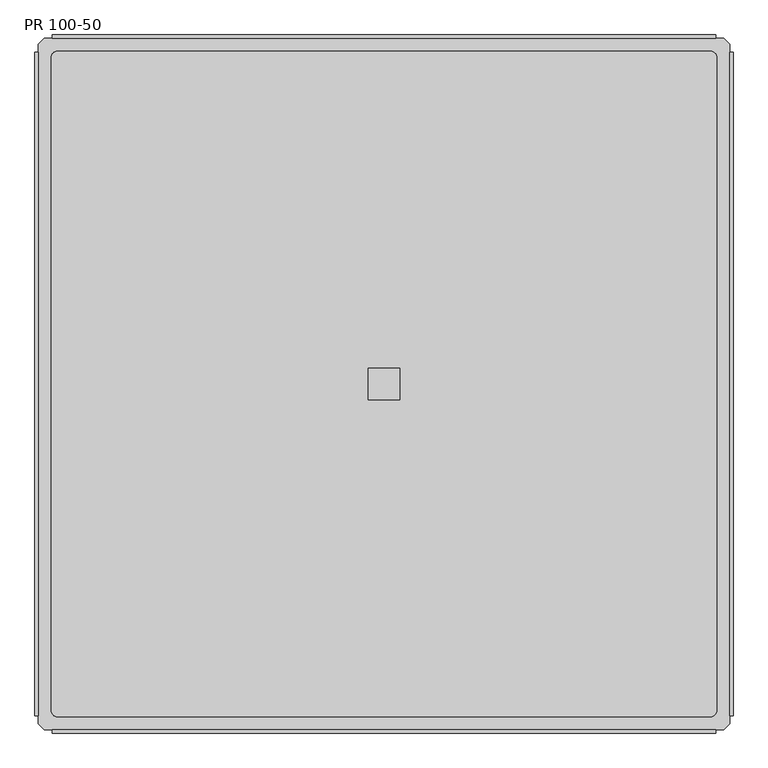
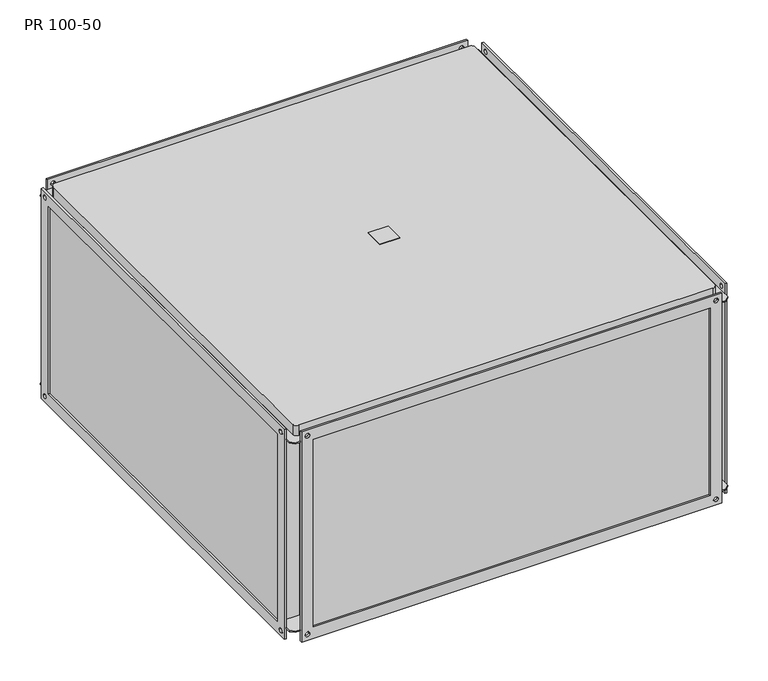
"""IFC4 building model written with IfcOpenShell, lengths in millimetres: proxy geometry, KORF_Рекуператор_Пластинчатый_PR : PR 100-50."""

from ifc_helpers import new_model, si_unit, point, frame, frame_2d, origin, place, context, project, spatial, polyline, circle_curve, trimmed, segment, composite_curve, outline, extrude, source, transform, mapped, element, save
from ifc_brep_helpers import plane_surface, cylinder_surface, revolved_surface, advanced_brep


def pr_100_50_d5668ea5(model_context):
    return source(origin(), model_context, "Body", "SolidModel", [
        extrude(outline(polyline([(533.0, -25.0), (533.0, 25.0), (583.0, 25.0), (583.0, -25.0), (533.0, -25.0)])), frame((0.0, 0.0, 280.0), z_axis=(0.0, 0.0, 1.0), x_axis=(1.0, 0.0, 0.0)), (0.0, 0.0, 1.0), 2.0),
        advanced_brep(
        [(1058.0, -553.0, -250.0), (1058.0, -553.0, 250.0), (58.0, -553.0, 250.0), (58.0, -553.0, -250.0), (1058.0, 553.0, 250.0), (1058.0, 553.0, -250.0), (58.0, 553.0, -250.0), (58.0, 553.0, 250.0), (15.0, 553.0, 253.0), (5.0, 543.0, 253.0), (5.0, -543.0, 253.0), (15.0, -553.0, 253.0), (28.0, -553.0, 253.0), (1088.0, -553.0, 253.0), (1101.0, -553.0, 253.0), (1111.0, -543.0, 253.0), (1111.0, 543.0, 253.0), (1101.0, 553.0, 253.0), (1088.0, 553.0, 253.0), (28.0, 553.0, 253.0), (36.0, 532.0, 253.0), (1080.0, 532.0, 253.0), (1090.0, 522.0, 253.0), (1090.0, -522.0, 253.0), (1080.0, -532.0, 253.0), (36.0, -532.0, 253.0), (26.0, -522.0, 253.0), (26.0, 522.0, 253.0), (55.0, -553.0, 250.0), (55.0, -503.0, 250.0), (55.0, -503.0, -250.0), (55.0, -553.0, -250.0), (55.0, 503.0, 250.0), (55.0, 553.0, 250.0), (55.0, 553.0, -250.0), (55.0, 503.0, -250.0), (5.0, 543.0, -253.0), (15.0, 553.0, -253.0), (28.0, 553.0, -253.0), (1088.0, 553.0, -253.0), (1101.0, 553.0, -253.0), (1111.0, 543.0, -253.0), (1111.0, -543.0, -253.0), (1101.0, -553.0, -253.0), (1088.0, -553.0, -253.0), (28.0, -553.0, -253.0), (15.0, -553.0, -253.0), (5.0, -543.0, -253.0), (1061.0, -503.0, 250.0), (1061.0, -553.0, 250.0), (1061.0, -553.0, -250.0), (1061.0, -503.0, -250.0), (1061.0, 553.0, 250.0), (1061.0, 503.0, 250.0), (1061.0, 503.0, -250.0), (1061.0, 553.0, -250.0), (1111.0, 503.0, 250.0), (1111.0, 543.0, 250.0), (1111.0, -543.0, 250.0), (1111.0, -503.0, 250.0), (1111.0, -503.0, -250.0), (1111.0, -543.0, -250.0), (1111.0, 543.0, -250.0), (1111.0, 503.0, -250.0), (5.0, 543.0, 250.0), (5.0, 503.0, 250.0), (5.0, 503.0, -250.0), (5.0, 543.0, -250.0), (5.0, -543.0, -250.0), (5.0, -503.0, -250.0), (5.0, -503.0, 250.0), (5.0, -543.0, 250.0), (1088.0, 558.0, 280.0), (1088.0, 558.0, -280.0), (28.0, 558.0, -280.0), (28.0, 558.0, 280.0), (1058.0, 558.0, 250.0), (58.0, 558.0, 250.0), (58.0, 558.0, -250.0), (1058.0, 558.0, -250.0), (37.5, 558.0, 265.0), (48.5, 558.0, 265.0), (1067.5, 558.0, 265.0), (1078.5, 558.0, 265.0), (1067.5, 558.0, -265.0), (1078.5, 558.0, -265.0), (37.5, 558.0, -265.0), (48.5, 558.0, -265.0), (1088.0, 553.0, 280.0), (28.0, 553.0, 280.0), (37.5, 553.0, 265.0), (48.5, 553.0, 265.0), (1067.5, 553.0, 265.0), (1078.5, 553.0, 265.0), (28.0, 553.0, -280.0), (1088.0, 553.0, -280.0), (1067.5, 553.0, -265.0), (1078.5, 553.0, -265.0), (37.5, 553.0, -265.0), (48.5, 553.0, -265.0), (28.0, 553.0, 250.0), (28.0, 553.0, -250.0), (1088.0, 553.0, 250.0), (1088.0, 553.0, -250.0), (1088.0, -558.0, 280.0), (28.0, -558.0, 280.0), (28.0, -558.0, -280.0), (1088.0, -558.0, -280.0), (1058.0, -558.0, 250.0), (1058.0, -558.0, -250.0), (58.0, -558.0, -250.0), (58.0, -558.0, 250.0), (1067.5, -558.0, 265.0), (1078.5, -558.0, 265.0), (1067.5, -558.0, -265.0), (1078.5, -558.0, -265.0), (37.5, -558.0, 265.0), (48.5, -558.0, 265.0), (37.5, -558.0, -265.0), (48.5, -558.0, -265.0), (1088.0, -553.0, -280.0), (28.0, -553.0, -280.0), (1067.5, -553.0, -265.0), (1078.5, -553.0, -265.0), (37.5, -553.0, -265.0), (48.5, -553.0, -265.0), (28.0, -553.0, 280.0), (1088.0, -553.0, 280.0), (1067.5, -553.0, 265.0), (1078.5, -553.0, 265.0), (37.5, -553.0, 265.0), (48.5, -553.0, 265.0), (28.0, -553.0, 250.0), (28.0, -553.0, -250.0), (1088.0, -553.0, 250.0), (1088.0, -553.0, -250.0), (1101.0, -553.0, 250.0), (15.0, 553.0, 250.0), (1101.0, 553.0, 250.0), (15.0, -553.0, 250.0), (1101.0, 553.0, -250.0), (15.0, -553.0, -250.0), (15.0, 553.0, -250.0), (1101.0, -553.0, -250.0), (1080.0, 532.0, 280.0), (36.0, 532.0, 280.0), (26.0, 522.0, 280.0), (26.0, -522.0, 280.0), (36.0, -532.0, 280.0), (1080.0, -532.0, 280.0), (1090.0, -522.0, 280.0), (1090.0, 522.0, 280.0)],
        [
            (0, 1),
            (1, 2),
            (2, 3),
            (3, 0),
            (4, 5),
            (5, 6),
            (6, 7),
            (7, 4),
            (8, 9),
            (9, 10),
            (10, 11),
            (11, 12),
            (12, 13),
            (13, 14),
            (14, 15),
            (15, 16),
            (16, 17),
            (17, 18),
            (18, 19),
            (19, 8),
            (20, 21),
            (21, 22, circle_curve(frame((1080.0, 522.0, 253.0), z_axis=(0.0, 0.0, -1.0), x_axis=(1.0, 0.0, 0.0)), 10.0)),
            (22, 23),
            (23, 24, circle_curve(frame((1080.0, -522.0, 253.0), z_axis=(0.0, 0.0, -1.0), x_axis=(1.0, 0.0, 0.0)), 10.0)),
            (24, 25),
            (25, 26, circle_curve(frame((36.0, -522.0, 253.0), z_axis=(0.0, 0.0, -1.0), x_axis=(1.0, 0.0, 0.0)), 10.0)),
            (26, 27),
            (27, 20, circle_curve(frame((36.0, 522.0, 253.0), z_axis=(0.0, 0.0, -1.0), x_axis=(1.0, 0.0, 0.0)), 10.0)),
            (28, 29),
            (29, 30),
            (30, 31),
            (31, 28),
            (32, 33),
            (33, 34),
            (34, 35),
            (35, 32),
            (36, 37),
            (37, 38),
            (38, 39),
            (39, 40),
            (40, 41),
            (41, 42),
            (42, 43),
            (43, 44),
            (44, 45),
            (45, 46),
            (46, 47),
            (47, 36),
            (48, 49),
            (49, 50),
            (50, 51),
            (51, 48),
            (52, 53),
            (53, 54),
            (54, 55),
            (55, 52),
            (56, 57),
            (57, 16),
            (15, 58),
            (58, 59),
            (59, 60),
            (60, 61),
            (61, 42),
            (41, 62),
            (62, 63),
            (63, 56),
            (64, 65),
            (65, 66),
            (66, 67),
            (67, 36),
            (47, 68),
            (68, 69),
            (69, 70),
            (70, 71),
            (71, 10),
            (9, 64),
            (29, 70),
            (69, 30),
            (59, 48),
            (51, 60),
            (65, 32),
            (35, 66),
            (53, 56),
            (63, 54),
            (72, 73),
            (73, 74),
            (74, 75),
            (75, 72),
            (76, 77),
            (77, 78),
            (78, 79),
            (79, 76),
            (80, 81, circle_curve(frame((43.0, 558.0, 265.0), z_axis=(0.0, -1.0, 0.0), x_axis=(1.0, 0.0, 0.0)), 5.5)),
            (81, 80, circle_curve(frame((43.0, 558.0, 265.0), z_axis=(0.0, -1.0, 0.0), x_axis=(1.0, 0.0, 0.0)), 5.5)),
            (82, 83, circle_curve(frame((1073.0, 558.0, 265.0), z_axis=(0.0, -1.0, 0.0), x_axis=(1.0, 0.0, 0.0)), 5.5)),
            (83, 82, circle_curve(frame((1073.0, 558.0, 265.0), z_axis=(0.0, -1.0, 0.0), x_axis=(1.0, 0.0, 0.0)), 5.5)),
            (84, 85, circle_curve(frame((1073.0, 558.0, -265.0), z_axis=(0.0, -1.0, 0.0), x_axis=(1.0, 0.0, 0.0)), 5.5)),
            (85, 84, circle_curve(frame((1073.0, 558.0, -265.0), z_axis=(0.0, -1.0, 0.0), x_axis=(1.0, 0.0, 0.0)), 5.5)),
            (86, 87, circle_curve(frame((43.0, 558.0, -265.0), z_axis=(0.0, -1.0, 0.0), x_axis=(1.0, 0.0, 0.0)), 5.5)),
            (87, 86, circle_curve(frame((43.0, 558.0, -265.0), z_axis=(0.0, -1.0, 0.0), x_axis=(1.0, 0.0, 0.0)), 5.5)),
            (88, 89),
            (89, 19),
            (18, 88),
            (90, 91, circle_curve(frame((43.0, 553.0, 265.0), z_axis=(0.0, 1.0, 0.0), x_axis=(1.0, 0.0, 0.0)), 5.5)),
            (91, 90, circle_curve(frame((43.0, 553.0, 265.0), z_axis=(0.0, 1.0, 0.0), x_axis=(1.0, 0.0, 0.0)), 5.5)),
            (92, 93, circle_curve(frame((1073.0, 553.0, 265.0), z_axis=(0.0, 1.0, 0.0), x_axis=(1.0, 0.0, 0.0)), 5.5)),
            (93, 92, circle_curve(frame((1073.0, 553.0, 265.0), z_axis=(0.0, 1.0, 0.0), x_axis=(1.0, 0.0, 0.0)), 5.5)),
            (94, 95),
            (95, 39),
            (38, 94),
            (96, 97, circle_curve(frame((1073.0, 553.0, -265.0), z_axis=(0.0, 1.0, 0.0), x_axis=(1.0, 0.0, 0.0)), 5.5)),
            (97, 96, circle_curve(frame((1073.0, 553.0, -265.0), z_axis=(0.0, 1.0, 0.0), x_axis=(1.0, 0.0, 0.0)), 5.5)),
            (98, 99, circle_curve(frame((43.0, 553.0, -265.0), z_axis=(0.0, 1.0, 0.0), x_axis=(1.0, 0.0, 0.0)), 5.5)),
            (99, 98, circle_curve(frame((43.0, 553.0, -265.0), z_axis=(0.0, 1.0, 0.0), x_axis=(1.0, 0.0, 0.0)), 5.5)),
            (33, 100),
            (100, 101),
            (101, 34),
            (102, 52),
            (55, 103),
            (103, 102),
            (75, 89),
            (88, 72),
            (74, 94),
            (38, 101),
            (100, 19),
            (73, 95),
            (18, 102),
            (103, 39),
            (79, 5),
            (4, 76),
            (78, 6),
            (77, 7),
            (104, 105),
            (105, 106),
            (106, 107),
            (107, 104),
            (108, 109),
            (109, 110),
            (110, 111),
            (111, 108),
            (112, 113, circle_curve(frame((1073.0, -558.0, 265.0), z_axis=(0.0, 1.0, 0.0), x_axis=(1.0, 0.0, 0.0)), 5.5)),
            (113, 112, circle_curve(frame((1073.0, -558.0, 265.0), z_axis=(0.0, 1.0, 0.0), x_axis=(1.0, 0.0, 0.0)), 5.5)),
            (114, 115, circle_curve(frame((1073.0, -558.0, -265.0), z_axis=(0.0, 1.0, 0.0), x_axis=(1.0, 0.0, 0.0)), 5.5)),
            (115, 114, circle_curve(frame((1073.0, -558.0, -265.0), z_axis=(0.0, 1.0, 0.0), x_axis=(1.0, 0.0, 0.0)), 5.5)),
            (116, 117, circle_curve(frame((43.0, -558.0, 265.0), z_axis=(0.0, 1.0, 0.0), x_axis=(1.0, 0.0, 0.0)), 5.5)),
            (117, 116, circle_curve(frame((43.0, -558.0, 265.0), z_axis=(0.0, 1.0, 0.0), x_axis=(1.0, 0.0, 0.0)), 5.5)),
            (118, 119, circle_curve(frame((43.0, -558.0, -265.0), z_axis=(0.0, 1.0, 0.0), x_axis=(1.0, 0.0, 0.0)), 5.5)),
            (119, 118, circle_curve(frame((43.0, -558.0, -265.0), z_axis=(0.0, 1.0, 0.0), x_axis=(1.0, 0.0, 0.0)), 5.5)),
            (120, 121),
            (121, 45),
            (44, 120),
            (122, 123, circle_curve(frame((1073.0, -553.0, -265.0), z_axis=(0.0, -1.0, 0.0), x_axis=(1.0, 0.0, 0.0)), 5.5)),
            (123, 122, circle_curve(frame((1073.0, -553.0, -265.0), z_axis=(0.0, -1.0, 0.0), x_axis=(1.0, 0.0, 0.0)), 5.5)),
            (124, 125, circle_curve(frame((43.0, -553.0, -265.0), z_axis=(0.0, -1.0, 0.0), x_axis=(1.0, 0.0, 0.0)), 5.5)),
            (125, 124, circle_curve(frame((43.0, -553.0, -265.0), z_axis=(0.0, -1.0, 0.0), x_axis=(1.0, 0.0, 0.0)), 5.5)),
            (126, 127),
            (127, 13),
            (12, 126),
            (128, 129, circle_curve(frame((1073.0, -553.0, 265.0), z_axis=(0.0, -1.0, 0.0), x_axis=(1.0, 0.0, 0.0)), 5.5)),
            (129, 128, circle_curve(frame((1073.0, -553.0, 265.0), z_axis=(0.0, -1.0, 0.0), x_axis=(1.0, 0.0, 0.0)), 5.5)),
            (130, 131, circle_curve(frame((43.0, -553.0, 265.0), z_axis=(0.0, -1.0, 0.0), x_axis=(1.0, 0.0, 0.0)), 5.5)),
            (131, 130, circle_curve(frame((43.0, -553.0, 265.0), z_axis=(0.0, -1.0, 0.0), x_axis=(1.0, 0.0, 0.0)), 5.5)),
            (132, 28),
            (31, 133),
            (133, 132),
            (49, 134),
            (134, 135),
            (135, 50),
            (104, 127),
            (126, 105),
            (12, 132),
            (133, 45),
            (121, 106),
            (120, 107),
            (44, 135),
            (134, 13),
            (108, 1),
            (0, 109),
            (3, 110),
            (2, 111),
            (81, 91),
            (90, 80),
            (83, 93),
            (92, 82),
            (85, 97),
            (96, 84),
            (87, 99),
            (98, 86),
            (112, 128),
            (129, 113),
            (114, 122),
            (123, 115),
            (116, 130),
            (131, 117),
            (118, 124),
            (125, 119),
            (58, 136),
            (136, 134),
            (64, 137),
            (137, 100),
            (138, 57),
            (102, 138),
            (139, 71),
            (132, 139),
            (137, 8),
            (138, 17),
            (139, 11),
            (136, 14),
            (62, 140),
            (140, 103),
            (68, 141),
            (141, 133),
            (142, 67),
            (101, 142),
            (143, 61),
            (135, 143),
            (37, 142),
            (40, 140),
            (46, 141),
            (43, 143),
            (144, 145),
            (145, 146, circle_curve(frame((36.0, 522.0, 280.0), z_axis=(0.0, 0.0, 1.0), x_axis=(1.0, 0.0, 0.0)), 10.0)),
            (146, 147),
            (147, 148, circle_curve(frame((36.0, -522.0, 280.0), z_axis=(0.0, 0.0, 1.0), x_axis=(1.0, 0.0, 0.0)), 10.0)),
            (148, 149),
            (149, 150, circle_curve(frame((1080.0, -522.0, 280.0), z_axis=(0.0, 0.0, 1.0), x_axis=(1.0, 0.0, 0.0)), 10.0)),
            (150, 151),
            (151, 144, circle_curve(frame((1080.0, 522.0, 280.0), z_axis=(0.0, 0.0, 1.0), x_axis=(1.0, 0.0, 0.0)), 10.0)),
            (144, 21),
            (20, 145),
            (27, 146),
            (26, 147),
            (25, 148),
            (24, 149),
            (23, 150),
            (22, 151),
        ],
        [
            plane_surface(frame((55.0, -553.0, 253.0), z_axis=(0.0, -1.0, 0.0), x_axis=(-1.0, 0.0, 0.0))),
            plane_surface(frame((55.0, 553.0, 253.0), z_axis=(0.0, 1.0, 0.0), x_axis=(1.0, 0.0, 0.0))),
            plane_surface(frame((1061.0, -553.0, 253.0), z_axis=(0.0, 0.0, 1.0), x_axis=(0.0, 1.0, 0.0))),
            plane_surface(frame((55.0, -553.0, 253.0), z_axis=(-1.0, 0.0, 0.0), x_axis=(0.0, 1.0, 0.0))),
            plane_surface(frame((55.0, -553.0, -253.0), z_axis=(0.0, 0.0, -1.0), x_axis=(0.0, 1.0, 0.0))),
            plane_surface(frame((1061.0, -553.0, -253.0), z_axis=(1.0, 0.0, 0.0), x_axis=(0.0, 1.0, 0.0))),
            plane_surface(frame((1111.0, -503.0, 253.0), z_axis=(1.0, 0.0, 0.0), x_axis=(0.0, 0.0, -1.0))),
            plane_surface(frame((5.0, -503.0, 253.0), z_axis=(-1.0, 0.0, 0.0), x_axis=(0.0, 0.0, 1.0))),
            plane_surface(frame((1111.0, -503.0, 253.0), z_axis=(0.0, -1.0, 0.0), x_axis=(-1.0, 0.0, 0.0))),
            plane_surface(frame((1111.0, 503.0, -253.0), z_axis=(0.0, 1.0, 0.0), x_axis=(-1.0, 0.0, 0.0))),
            plane_surface(frame((28.0, 558.0, 280.0), z_axis=(0.0, 1.0, 0.0), x_axis=(1.0, 0.0, 0.0))),
            plane_surface(frame((28.0, 553.0, 280.0), z_axis=(0.0, -1.0, 0.0), x_axis=(-1.0, 0.0, 0.0))),
            plane_surface(frame((1088.0, 553.0, 280.0), z_axis=(0.0, 0.0, 1.0), x_axis=(0.0, 1.0, 0.0))),
            plane_surface(frame((28.0, 553.0, 280.0), z_axis=(-1.0, 0.0, 0.0), x_axis=(0.0, 1.0, 0.0))),
            plane_surface(frame((28.0, 553.0, -280.0), z_axis=(0.0, 0.0, -1.0), x_axis=(0.0, 1.0, 0.0))),
            plane_surface(frame((1088.0, 553.0, -280.0), z_axis=(1.0, 0.0, 0.0), x_axis=(0.0, 1.0, 0.0))),
            plane_surface(frame((1058.0, 553.0, 250.0), z_axis=(-1.0, 0.0, 0.0), x_axis=(0.0, 1.0, 0.0))),
            plane_surface(frame((1058.0, 553.0, -250.0), z_axis=(0.0, 0.0, 1.0), x_axis=(0.0, 1.0, 0.0))),
            plane_surface(frame((58.0, 553.0, -250.0), z_axis=(1.0, 0.0, 0.0), x_axis=(0.0, 1.0, 0.0))),
            plane_surface(frame((58.0, 553.0, 250.0), z_axis=(0.0, 0.0, -1.0), x_axis=(0.0, 1.0, 0.0))),
            plane_surface(frame((28.0, -558.0, 280.0), z_axis=(0.0, -1.0, 0.0), x_axis=(-1.0, 0.0, 0.0))),
            plane_surface(frame((28.0, -553.0, 280.0), z_axis=(0.0, 1.0, 0.0), x_axis=(1.0, 0.0, 0.0))),
            plane_surface(frame((1088.0, -558.0, 280.0), z_axis=(0.0, 0.0, 1.0), x_axis=(0.0, 1.0, 0.0))),
            plane_surface(frame((28.0, -558.0, 280.0), z_axis=(-1.0, 0.0, 0.0), x_axis=(0.0, 1.0, 0.0))),
            plane_surface(frame((28.0, -558.0, -280.0), z_axis=(0.0, 0.0, -1.0), x_axis=(0.0, 1.0, 0.0))),
            plane_surface(frame((1088.0, -558.0, -280.0), z_axis=(1.0, 0.0, 0.0), x_axis=(0.0, 1.0, 0.0))),
            plane_surface(frame((1058.0, -558.0, 250.0), z_axis=(-1.0, 0.0, 0.0), x_axis=(0.0, 1.0, 0.0))),
            plane_surface(frame((1058.0, -558.0, -250.0), z_axis=(0.0, 0.0, 1.0), x_axis=(0.0, 1.0, 0.0))),
            plane_surface(frame((58.0, -558.0, -250.0), z_axis=(1.0, 0.0, 0.0), x_axis=(0.0, 1.0, 0.0))),
            plane_surface(frame((58.0, -558.0, 250.0), z_axis=(0.0, 0.0, -1.0), x_axis=(0.0, 1.0, 0.0))),
            revolved_surface(polyline([(48.5, 558.0, 265.0), (48.5, 553.0, 265.0)]), (43.0, 0.0, 265.0), (0.0, 1.0, 0.0)),
            revolved_surface(polyline([(1078.5, 558.0, 265.0), (1078.5, 553.0, 265.0)]), (1073.0, 0.0, 265.0), (0.0, 1.0, 0.0)),
            revolved_surface(polyline([(1078.5, 558.0, -265.0), (1078.5, 553.0, -265.0)]), (1073.0, 0.0, -265.0), (0.0, 1.0, 0.0)),
            revolved_surface(polyline([(48.5, 558.0, -265.0), (48.5, 553.0, -265.0)]), (43.0, 0.0, -265.0), (0.0, 1.0, 0.0)),
            revolved_surface(polyline([(1078.5, -553.0, 265.0), (1078.5, -558.0, 265.0)]), (1073.0, 0.0, 265.0), (0.0, 1.0, 0.0)),
            revolved_surface(polyline([(1078.5, -553.0, -265.0), (1078.5, -558.0, -265.0)]), (1073.0, 0.0, -265.0), (0.0, 1.0, 0.0)),
            revolved_surface(polyline([(48.5, -553.0, 265.0), (48.5, -558.0, 265.0)]), (43.0, 0.0, 265.0), (0.0, 1.0, 0.0)),
            revolved_surface(polyline([(48.5, -553.0, -265.0), (48.5, -558.0, -265.0)]), (43.0, 0.0, -265.0), (0.0, 1.0, 0.0)),
            plane_surface(frame((55.0, 503.0, 250.0), z_axis=(0.0, 0.0, -1.0), x_axis=(0.0, -1.0, 0.0))),
            plane_surface(frame((55.0, 553.0, 253.0), z_axis=(0.0, 1.0, 0.0), x_axis=(0.0, 0.0, -1.0))),
            plane_surface(frame((15.0, 553.0, 253.0), z_axis=(-0.7071067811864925, 0.7071067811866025, 0.0), x_axis=(0.0, 0.0, -1.0))),
            plane_surface(frame((1111.0, 543.0, 253.0), z_axis=(0.7071067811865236, 0.7071067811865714, 0.0), x_axis=(0.0, 0.0, -1.0))),
            plane_surface(frame((1101.0, 553.0, 253.0), z_axis=(0.0, 1.0, 0.0), x_axis=(0.0, 0.0, -1.0))),
            plane_surface(frame((5.0, -543.0, 253.0), z_axis=(-0.7071067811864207, -0.7071067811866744, 0.0), x_axis=(0.0, 0.0, -1.0))),
            plane_surface(frame((15.0, -553.0, 253.0), z_axis=(0.0, -1.0, 0.0), x_axis=(0.0, 0.0, -1.0))),
            plane_surface(frame((1061.0, -553.0, 253.0), z_axis=(0.0, -1.0, 0.0), x_axis=(0.0, 0.0, -1.0))),
            plane_surface(frame((1101.0, -553.0, 253.0), z_axis=(0.7071067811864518, -0.7071067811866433, 0.0), x_axis=(0.0, 0.0, -1.0))),
            plane_surface(frame((55.0, 503.0, -250.0), z_axis=(0.0, 0.0, 1.0), x_axis=(0.0, 1.0, 0.0))),
            plane_surface(frame((55.0, 553.0, -250.0), z_axis=(0.0, 1.0, 0.0), x_axis=(0.0, 0.0, -1.0))),
            plane_surface(frame((15.0, 553.0, -250.0), z_axis=(-0.7071067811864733, 0.7071067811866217, 0.0), x_axis=(0.0, 0.0, -1.0))),
            plane_surface(frame((1111.0, 543.0, -250.0), z_axis=(0.7071067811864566, 0.7071067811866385, 0.0), x_axis=(0.0, 0.0, -1.0))),
            plane_surface(frame((1101.0, 553.0, -250.0), z_axis=(0.0, 1.0, 0.0), x_axis=(0.0, 0.0, -1.0))),
            plane_surface(frame((5.0, -543.0, -250.0), z_axis=(-0.707106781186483, -0.7071067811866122, 0.0), x_axis=(0.0, 0.0, -1.0))),
            plane_surface(frame((15.0, -553.0, -250.0), z_axis=(0.0, -1.0, 0.0), x_axis=(0.0, 0.0, -1.0))),
            plane_surface(frame((1061.0, -553.0, -250.0), z_axis=(0.0, -1.0, 0.0), x_axis=(0.0, 0.0, -1.0))),
            plane_surface(frame((1101.0, -553.0, -250.0), z_axis=(0.7071067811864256, -0.7071067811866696, 0.0), x_axis=(0.0, 0.0, -1.0))),
            plane_surface(frame((36.0, 532.0, 280.0), z_axis=(0.0, 0.0, 1.0), x_axis=(-1.0, 0.0, 0.0))),
            plane_surface(frame((1080.0, 532.0, 280.0), z_axis=(0.0, 1.0, 0.0), x_axis=(0.0, 0.0, -1.0))),
            cylinder_surface(frame((36.0, 522.0, 253.0), z_axis=(0.0, 0.0, 1.0), x_axis=(1.0, 0.0, 0.0)), 10.0),
            plane_surface(frame((26.0, 522.0, 280.0), z_axis=(-1.0, 0.0, 0.0), x_axis=(0.0, 0.0, -1.0))),
            cylinder_surface(frame((36.0, -522.0, 253.0), z_axis=(0.0, 0.0, 1.0), x_axis=(1.0, 0.0, 0.0)), 10.0),
            plane_surface(frame((36.0, -532.0, 280.0), z_axis=(0.0, -1.0, 0.0), x_axis=(0.0, 0.0, -1.0))),
            cylinder_surface(frame((1080.0, -522.0, 253.0), z_axis=(0.0, 0.0, 1.0), x_axis=(1.0, 0.0, 0.0)), 10.0),
            plane_surface(frame((1090.0, -522.0, 280.0), z_axis=(1.0, 0.0, 0.0), x_axis=(0.0, 0.0, -1.0))),
            cylinder_surface(frame((1080.0, 522.0, 253.0), z_axis=(0.0, 0.0, 1.0), x_axis=(1.0, 0.0, 0.0)), 10.0),
        ],
        [
            (0, [[1, 2, 3, 4]]),
            (1, [[5, 6, 7, 8]]),
            (2, [[9, 10, 11, 12, 13, 14, 15, 16, 17, 18, 19, 20], [21, 22, 23, 24, 25, 26, 27, 28]]),
            (3, [[29, 30, 31, 32]]),
            (3, [[33, 34, 35, 36]]),
            (4, [[37, 38, 39, 40, 41, 42, 43, 44, 45, 46, 47, 48]]),
            (5, [[49, 50, 51, 52]]),
            (5, [[53, 54, 55, 56]]),
            (6, [[57, 58, -16, 59, 60, 61, 62, 63, -42, 64, 65, 66]]),
            (7, [[67, 68, 69, 70, -48, 71, 72, 73, 74, 75, -10, 76]]),
            (8, [[77, -73, 78, -30]]),
            (8, [[79, -52, 80, -61]]),
            (9, [[81, -36, 82, -68]]),
            (9, [[83, -66, 84, -54]]),
            (10, [[85, 86, 87, 88], [89, 90, 91, 92], [93, 94], [95, 96], [97, 98], [99, 100]]),
            (11, [[101, 102, -19, 103], [104, 105], [106, 107]]),
            (11, [[108, 109, -39, 110], [111, 112], [113, 114]]),
            (11, [[115, 116, 117, -34]]),
            (11, [[118, -56, 119, 120]]),
            (12, [[-88, 121, -101, 122]]),
            (13, [[-87, 123, -110, 124, -116, 125, -102, -121]]),
            (14, [[-86, 126, -108, -123]]),
            (15, [[-85, -122, -103, 127, -120, 128, -109, -126]]),
            (16, [[-92, 129, -5, 130]]),
            (17, [[-91, 131, -6, -129]]),
            (18, [[-90, 132, -7, -131]]),
            (19, [[-89, -130, -8, -132]]),
            (20, [[133, 134, 135, 136], [137, 138, 139, 140], [141, 142], [143, 144], [145, 146], [147, 148]]),
            (21, [[149, 150, -45, 151], [152, 153], [154, 155]]),
            (21, [[156, 157, -13, 158], [159, 160], [161, 162]]),
            (21, [[163, -32, 164, 165]]),
            (21, [[166, 167, 168, -50]]),
            (22, [[-133, 169, -156, 170]]),
            (23, [[-134, -170, -158, 171, -165, 172, -150, 173]]),
            (24, [[-135, -173, -149, 174]]),
            (25, [[-136, -174, -151, 175, -167, 176, -157, -169]]),
            (26, [[-137, 177, -1, 178]]),
            (27, [[-138, -178, -4, 179]]),
            (28, [[-139, -179, -3, 180]]),
            (29, [[-140, -180, -2, -177]]),
            (30, [[-94, 181, -104, 182]]),
            (30, [[-93, -182, -105, -181]]),
            (31, [[-96, 183, -106, 184]]),
            (31, [[-95, -184, -107, -183]]),
            (32, [[-98, 185, -111, 186]]),
            (32, [[-97, -186, -112, -185]]),
            (33, [[-100, 187, -113, 188]]),
            (33, [[-99, -188, -114, -187]]),
            (34, [[-141, 189, -160, 190]]),
            (34, [[-142, -190, -159, -189]]),
            (35, [[-143, 191, -153, 192]]),
            (35, [[-144, -192, -152, -191]]),
            (36, [[-145, 193, -162, 194]]),
            (36, [[-146, -194, -161, -193]]),
            (37, [[-147, 195, -155, 196]]),
            (37, [[-148, -196, -154, -195]]),
            (38, [[-60, 197, 198, -166, -49, -79]]),
            (38, [[-67, 199, 200, -115, -33, -81]]),
            (38, [[201, -57, -83, -53, -118, 202]]),
            (38, [[203, -74, -77, -29, -163, 204]]),
            (39, [[205, -20, -125, -200]]),
            (40, [[-199, -76, -9, -205]]),
            (41, [[-201, 206, -17, -58]]),
            (42, [[-206, -202, -127, -18]]),
            (43, [[-203, 207, -11, -75]]),
            (44, [[-207, -204, -171, -12]]),
            (45, [[208, -14, -176, -198]]),
            (46, [[-197, -59, -15, -208]]),
            (47, [[-65, 209, 210, -119, -55, -84]]),
            (47, [[-72, 211, 212, -164, -31, -78]]),
            (47, [[213, -69, -82, -35, -117, 214]]),
            (47, [[215, -62, -80, -51, -168, 216]]),
            (48, [[217, -214, -124, -38]]),
            (49, [[-213, -217, -37, -70]]),
            (50, [[-209, -64, -41, 218]]),
            (51, [[-218, -40, -128, -210]]),
            (52, [[-211, -71, -47, 219]]),
            (53, [[-219, -46, -172, -212]]),
            (54, [[220, -216, -175, -44]]),
            (55, [[-215, -220, -43, -63]]),
            (56, [[221, 222, 223, 224, 225, 226, 227, 228]]),
            (57, [[-221, 229, -21, 230]]),
            (58, [[-222, -230, -28, 231]]),
            (59, [[-223, -231, -27, 232]]),
            (60, [[-224, -232, -26, 233]]),
            (61, [[-225, -233, -25, 234]]),
            (62, [[-226, -234, -24, 235]]),
            (63, [[-227, -235, -23, 236]]),
            (64, [[-228, -236, -22, -229]]),
        ],
    ),
        extrude(outline(polyline([(-530.0, 280.0), (530.0, 280.0), (530.0, -280.0), (-530.0, -280.0), (-530.0, 280.0)]), holes=[polyline([(-500.0, 250.0), (-500.0, -250.0), (500.0, -250.0), (500.0, 250.0), (-500.0, 250.0)]), composite_curve([segment(trimmed(circle_curve(frame_2d((515.0, 265.0)), 5.5), [point((509.5, 265.0))], [point((520.5, 265.0))], True, "CARTESIAN"), True, "CONTINUOUS"), segment(trimmed(circle_curve(frame_2d((515.0, 265.0)), 5.5), [point((520.5, 265.0))], [point((509.5, 265.0))], True, "CARTESIAN"), True, "CONTINUOUS")], self_intersect=False), composite_curve([segment(trimmed(circle_curve(frame_2d((-515.0, 265.0)), 5.5), [point((-520.5, 265.0))], [point((-509.5, 265.0))], True, "CARTESIAN"), True, "CONTINUOUS"), segment(trimmed(circle_curve(frame_2d((-515.0, 265.0)), 5.5), [point((-509.5, 265.0))], [point((-520.5, 265.0))], True, "CARTESIAN"), True, "CONTINUOUS")], self_intersect=False), composite_curve([segment(trimmed(circle_curve(frame_2d((-515.0, -265.0)), 5.5), [point((-520.5, -265.0))], [point((-509.5, -265.0))], True, "CARTESIAN"), True, "CONTINUOUS"), segment(trimmed(circle_curve(frame_2d((-515.0, -265.0)), 5.5), [point((-509.5, -265.0))], [point((-520.5, -265.0))], True, "CARTESIAN"), True, "CONTINUOUS")], self_intersect=False), composite_curve([segment(trimmed(circle_curve(frame_2d((515.0, -265.0)), 5.5), [point((509.5, -265.0))], [point((520.5, -265.0))], True, "CARTESIAN"), True, "CONTINUOUS"), segment(trimmed(circle_curve(frame_2d((515.0, -265.0)), 5.5), [point((520.5, -265.0))], [point((509.5, -265.0))], True, "CARTESIAN"), True, "CONTINUOUS")], self_intersect=False)]), frame((1111.0, 0.0, 0.0), z_axis=(1.0, 0.0, 0.0), x_axis=(0.0, 1.0, 0.0)), (0.0, 0.0, 1.0), 5.0),
        advanced_brep(
        [(0.0, -530.0, 280.0), (0.0, 530.0, 280.0), (0.0, 530.0, -280.0), (0.0, -530.0, -280.0), (0.0, -500.0, 250.0), (0.0, -500.0, -250.0), (0.0, 500.0, -250.0), (0.0, 500.0, 250.0), (0.0, 509.5, 265.0), (0.0, 520.5, 265.0), (0.0, -520.5, 265.0), (0.0, -509.5, 265.0), (0.0, -520.5, -265.0), (0.0, -509.5, -265.0), (0.0, 509.5, -265.0), (0.0, 520.5, -265.0), (5.0, -530.0, 280.0), (5.0, -530.0, -280.0), (5.0, 530.0, -280.0), (5.0, 530.0, 280.0), (5.0, 520.5, 265.0), (5.0, 509.5, 265.0), (5.0, -509.5, 265.0), (5.0, -520.5, 265.0), (5.0, -509.5, -265.0), (5.0, -520.5, -265.0), (5.0, 520.5, -265.0), (5.0, 509.5, -265.0), (5.0, -500.0, -250.0), (5.0, -500.0, 250.0), (5.0, 500.0, 250.0), (5.0, 500.0, -250.0), (5.0, 500.0, 250.0), (5.0, -500.0, 250.0), (5.0, 500.0, -250.0), (5.0, -500.0, -250.0), (1111.0, -500.0, 250.0), (1111.0, -500.0, -250.0), (1111.0, 500.0, 250.0), (1111.0, 500.0, -250.0)],
        [
            (0, 1),
            (1, 2),
            (2, 3),
            (3, 0),
            (4, 5),
            (5, 6),
            (6, 7),
            (7, 4),
            (8, 9, circle_curve(frame((0.0, 515.0, 265.0), z_axis=(1.0, 0.0, 0.0), x_axis=(0.0, 1.0, 0.0)), 5.5)),
            (9, 8, circle_curve(frame((0.0, 515.0, 265.0), z_axis=(1.0, 0.0, 0.0), x_axis=(0.0, 1.0, 0.0)), 5.5)),
            (10, 11, circle_curve(frame((0.0, -515.0, 265.0), z_axis=(1.0, 0.0, 0.0), x_axis=(0.0, 1.0, 0.0)), 5.5)),
            (11, 10, circle_curve(frame((0.0, -515.0, 265.0), z_axis=(1.0, 0.0, 0.0), x_axis=(0.0, 1.0, 0.0)), 5.5)),
            (12, 13, circle_curve(frame((0.0, -515.0, -265.0), z_axis=(1.0, 0.0, 0.0), x_axis=(0.0, 1.0, 0.0)), 5.5)),
            (13, 12, circle_curve(frame((0.0, -515.0, -265.0), z_axis=(1.0, 0.0, 0.0), x_axis=(0.0, 1.0, 0.0)), 5.5)),
            (14, 15, circle_curve(frame((0.0, 515.0, -265.0), z_axis=(1.0, 0.0, 0.0), x_axis=(0.0, 1.0, 0.0)), 5.5)),
            (15, 14, circle_curve(frame((0.0, 515.0, -265.0), z_axis=(1.0, 0.0, 0.0), x_axis=(0.0, 1.0, 0.0)), 5.5)),
            (16, 17),
            (17, 18),
            (18, 19),
            (19, 16),
            (20, 21, circle_curve(frame((5.0, 515.0, 265.0), z_axis=(-1.0, 0.0, 0.0), x_axis=(0.0, 1.0, 0.0)), 5.5)),
            (21, 20, circle_curve(frame((5.0, 515.0, 265.0), z_axis=(-1.0, 0.0, 0.0), x_axis=(0.0, 1.0, 0.0)), 5.5)),
            (22, 23, circle_curve(frame((5.0, -515.0, 265.0), z_axis=(-1.0, 0.0, 0.0), x_axis=(0.0, 1.0, 0.0)), 5.5)),
            (23, 22, circle_curve(frame((5.0, -515.0, 265.0), z_axis=(-1.0, 0.0, 0.0), x_axis=(0.0, 1.0, 0.0)), 5.5)),
            (24, 25, circle_curve(frame((5.0, -515.0, -265.0), z_axis=(-1.0, 0.0, 0.0), x_axis=(0.0, 1.0, 0.0)), 5.5)),
            (25, 24, circle_curve(frame((5.0, -515.0, -265.0), z_axis=(-1.0, 0.0, 0.0), x_axis=(0.0, 1.0, 0.0)), 5.5)),
            (26, 27, circle_curve(frame((5.0, 515.0, -265.0), z_axis=(-1.0, 0.0, 0.0), x_axis=(0.0, 1.0, 0.0)), 5.5)),
            (27, 26, circle_curve(frame((5.0, 515.0, -265.0), z_axis=(-1.0, 0.0, 0.0), x_axis=(0.0, 1.0, 0.0)), 5.5)),
            (28, 29),
            (29, 30),
            (30, 31),
            (31, 28),
            (3, 17),
            (16, 0),
            (2, 18),
            (1, 19),
            (7, 32),
            (32, 33),
            (33, 4),
            (6, 34),
            (34, 32),
            (5, 35),
            (35, 34),
            (33, 35),
            (20, 9),
            (8, 21),
            (22, 11),
            (10, 23),
            (24, 13),
            (12, 25),
            (26, 15),
            (14, 27),
            (36, 29),
            (28, 37),
            (37, 36),
            (38, 39),
            (39, 31),
            (30, 38),
            (36, 38),
            (39, 37),
        ],
        [
            plane_surface(frame((0.0, -530.0, 280.0), z_axis=(-1.0, 0.0, 0.0), x_axis=(0.0, 0.0, 1.0))),
            plane_surface(frame((5.0, -530.0, 280.0), z_axis=(1.0, 0.0, 0.0), x_axis=(0.0, 0.0, -1.0))),
            plane_surface(frame((5.0, -530.0, 280.0), z_axis=(0.0, -1.0, 0.0), x_axis=(-1.0, 0.0, 0.0))),
            plane_surface(frame((5.0, -530.0, -280.0), z_axis=(0.0, 0.0, -1.0), x_axis=(-1.0, 0.0, 0.0))),
            plane_surface(frame((5.0, 530.0, -280.0), z_axis=(0.0, 1.0, 0.0), x_axis=(-1.0, 0.0, 0.0))),
            plane_surface(frame((5.0, 530.0, 280.0), z_axis=(0.0, 0.0, 1.0), x_axis=(-1.0, 0.0, 0.0))),
            plane_surface(frame((5.0, -500.0, 250.0), z_axis=(0.0, 0.0, -1.0), x_axis=(-1.0, 0.0, 0.0))),
            plane_surface(frame((5.0, 500.0, 250.0), z_axis=(0.0, -1.0, 0.0), x_axis=(-1.0, 0.0, 0.0))),
            plane_surface(frame((5.0, 500.0, -250.0), z_axis=(0.0, 0.0, 1.0), x_axis=(-1.0, 0.0, 0.0))),
            plane_surface(frame((5.0, -500.0, -250.0), z_axis=(0.0, 1.0, 0.0), x_axis=(-1.0, 0.0, 0.0))),
            revolved_surface(polyline([(5.0, 520.5, 265.0), (0.0, 520.5, 265.0)]), (0.0, 515.0, 265.0), (1.0, 0.0, 0.0)),
            revolved_surface(polyline([(5.0, -509.5, 265.0), (0.0, -509.5, 265.0)]), (0.0, -515.0, 265.0), (1.0, 0.0, 0.0)),
            revolved_surface(polyline([(5.0, -509.5, -265.0), (0.0, -509.5, -265.0)]), (0.0, -515.0, -265.0), (1.0, 0.0, 0.0)),
            revolved_surface(polyline([(5.0, 520.5, -265.0), (0.0, 520.5, -265.0)]), (0.0, 515.0, -265.0), (1.0, 0.0, 0.0)),
            plane_surface(frame((5.0, -500.0, 250.0), z_axis=(0.0, -1.0, 0.0), x_axis=(-1.0, 0.0, 0.0))),
            plane_surface(frame((5.0, 500.0, 250.0), z_axis=(0.0, 1.0, 0.0), x_axis=(1.0, 0.0, 0.0))),
            plane_surface(frame((1111.0, -500.0, 250.0), z_axis=(0.0, 0.0, 1.0), x_axis=(0.0, 1.0, 0.0))),
            plane_surface(frame((5.0, -500.0, 250.0), z_axis=(-1.0, 0.0, 0.0), x_axis=(0.0, 1.0, 0.0))),
            plane_surface(frame((5.0, -500.0, -250.0), z_axis=(0.0, 0.0, -1.0), x_axis=(0.0, 1.0, 0.0))),
            plane_surface(frame((1111.0, -500.0, -250.0), z_axis=(1.0, 0.0, 0.0), x_axis=(0.0, 1.0, 0.0))),
        ],
        [
            (0, [[1, 2, 3, 4], [5, 6, 7, 8], [9, 10], [11, 12], [13, 14], [15, 16]]),
            (1, [[17, 18, 19, 20], [21, 22], [23, 24], [25, 26], [27, 28], [29, 30, 31, 32]]),
            (2, [[-4, 33, -17, 34]]),
            (3, [[-3, 35, -18, -33]]),
            (4, [[-2, 36, -19, -35]]),
            (5, [[-1, -34, -20, -36]]),
            (6, [[-8, 37, 38, 39]]),
            (7, [[-7, 40, 41, -37]]),
            (8, [[-6, 42, 43, -40]]),
            (9, [[-5, -39, 44, -42]]),
            (10, [[45, -9, 46, -21]]),
            (10, [[-45, -22, -46, -10]]),
            (11, [[47, -11, 48, -23]]),
            (11, [[-47, -24, -48, -12]]),
            (12, [[49, -13, 50, -25]]),
            (12, [[-49, -26, -50, -14]]),
            (13, [[51, -15, 52, -27]]),
            (13, [[-51, -28, -52, -16]]),
            (14, [[53, -29, 54, 55]]),
            (15, [[56, 57, -31, 58]]),
            (16, [[-53, 59, -58, -30]]),
            (17, [[-38, -41, -43, -44]]),
            (18, [[-54, -32, -57, 60]]),
            (19, [[-55, -60, -56, -59]]),
        ],
    ),
    ])


if __name__ == "__main__":
    model = new_model("IFC4")
    model_context = context("Model", 3, world=origin())
    ifc_project = project(units=[si_unit("LENGTHUNIT", "METRE", prefix="MILLI")], contexts=[model_context])
    site = spatial("IfcSite", under=ifc_project)
    building = spatial("IfcBuilding", under=site)
    placement = place(None, origin())
    pr_100_50_shape = pr_100_50_d5668ea5(model_context)
    element("IfcBuildingElementProxy", 1, Name="KORF_Рекуператор_Пластинчатый_PR : PR 100-50", ObjectType="KORF_Рекуператор_Пластинчатый_PR : PR 100-50", at=placement, inside=building, context=model_context, shape_type="MappedRepresentation", body=[
        mapped(pr_100_50_shape, transform((0.0, 0.0, 0.0), x_axis=(1.0, 0.0, 0.0), y_axis=(0.0, 1.0, 0.0), z_axis=(0.0, 0.0, 1.0))),
    ])
    save(model, "model.ifc")
